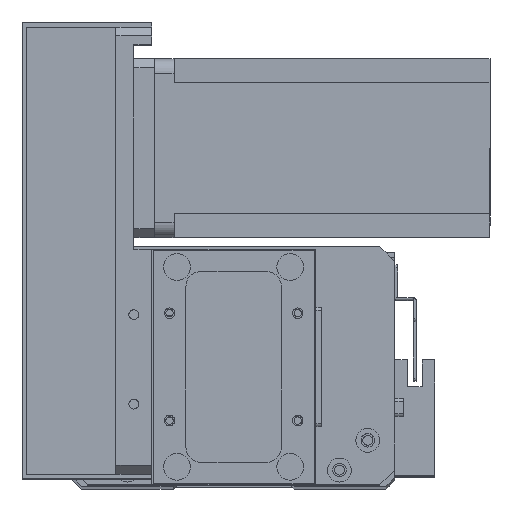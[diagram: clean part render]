
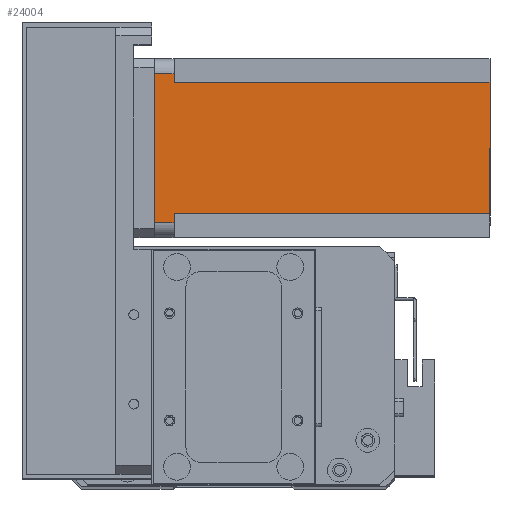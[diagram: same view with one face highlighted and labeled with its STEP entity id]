
A CAD part, top view. The second image highlights one B-rep face of the part: STEP entity #24004.
In plain terms, the highlighted planar face has unit normal (0, 0, 1) as drawn and (0, -1, 0) by its records, which use the part's own axes.
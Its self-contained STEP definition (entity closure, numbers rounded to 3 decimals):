
#62 = VECTOR ( 'NONE', #25181, 1000. ) ;
#411 = VECTOR ( 'NONE', #24879, 1000. ) ;
#420 = CARTESIAN_POINT ( 'NONE',  ( 0., 0., -112.5 ) ) ;
#842 = VERTEX_POINT ( 'NONE', #2804 ) ;
#1143 = ORIENTED_EDGE ( 'NONE', *, *, #6140, .F. ) ;
#1198 = LINE ( 'NONE', #12130, #6946 ) ;
#1729 = ORIENTED_EDGE ( 'NONE', *, *, #6901, .T. ) ;
#1938 = VERTEX_POINT ( 'NONE', #24427 ) ;
#2071 = CARTESIAN_POINT ( 'NONE',  ( 52., 0., -112.5 ) ) ;
#2735 = LINE ( 'NONE', #16335, #13754 ) ;
#2741 = EDGE_LOOP ( 'NONE', ( #4634, #14000, #1143, #4277, #9098, #12307, #1729, #10123 ) ) ;
#2804 = CARTESIAN_POINT ( 'NONE',  ( 55., 0., 0. ) ) ;
#4026 = FACE_OUTER_BOUND ( 'NONE', #2741, .T. ) ;
#4277 = ORIENTED_EDGE ( 'NONE', *, *, #6811, .T. ) ;
#4634 = ORIENTED_EDGE ( 'NONE', *, *, #6772, .T. ) ;
#4643 = VECTOR ( 'NONE', #14567, 1000. ) ;
#5426 = VECTOR ( 'NONE', #14472, 1000. ) ;
#5809 = AXIS2_PLACEMENT_3D ( 'NONE', #19473, #23751, #10836 ) ;
#6057 = CARTESIAN_POINT ( 'NONE',  ( 55., 0., -6.5 ) ) ;
#6140 = EDGE_CURVE ( 'NONE', #18527, #842, #24183, .T. ) ;
#6772 = EDGE_CURVE ( 'NONE', #24180, #24784, #8480, .T. ) ;
#6803 = EDGE_CURVE ( 'NONE', #24784, #842, #2735, .T. ) ;
#6811 = EDGE_CURVE ( 'NONE', #18527, #21560, #18799, .T. ) ;
#6815 = EDGE_CURVE ( 'NONE', #13104, #21560, #1198, .T. ) ;
#6852 = EDGE_CURVE ( 'NONE', #1938, #13104, #28708, .T. ) ;
#6901 = EDGE_CURVE ( 'NONE', #1938, #28888, #17479, .T. ) ;
#6910 = EDGE_CURVE ( 'NONE', #24180, #28888, #27352, .T. ) ;
#6946 = VECTOR ( 'NONE', #27045, 1000. ) ;
#8480 = LINE ( 'NONE', #22685, #9954 ) ;
#9098 = ORIENTED_EDGE ( 'NONE', *, *, #6815, .F. ) ;
#9803 = DIRECTION ( 'NONE',  ( 0., 0., 1. ) ) ;
#9954 = VECTOR ( 'NONE', #26852, 1000. ) ;
#10123 = ORIENTED_EDGE ( 'NONE', *, *, #6910, .F. ) ;
#10836 = DIRECTION ( 'NONE',  ( 0., 0., -1. ) ) ;
#12130 = CARTESIAN_POINT ( 'NONE',  ( 8., 0., -6.5 ) ) ;
#12307 = ORIENTED_EDGE ( 'NONE', *, *, #6852, .F. ) ;
#12686 = CARTESIAN_POINT ( 'NONE',  ( 5., 0., -6.5 ) ) ;
#13104 = VERTEX_POINT ( 'NONE', #25662 ) ;
#13754 = VECTOR ( 'NONE', #9803, 1000. ) ;
#14000 = ORIENTED_EDGE ( 'NONE', *, *, #6803, .T. ) ;
#14263 = CARTESIAN_POINT ( 'NONE',  ( 5., 0., -112.5 ) ) ;
#14472 = DIRECTION ( 'NONE',  ( 0., 0., 1. ) ) ;
#14567 = DIRECTION ( 'NONE',  ( 1., 0., 0. ) ) ;
#16132 = VECTOR ( 'NONE', #25225, 1000. ) ;
#16335 = CARTESIAN_POINT ( 'NONE',  ( 55., 0., -112.5 ) ) ;
#17479 = LINE ( 'NONE', #420, #4643 ) ;
#18527 = VERTEX_POINT ( 'NONE', #21351 ) ;
#18580 = CARTESIAN_POINT ( 'NONE',  ( 8., 0., -112.5 ) ) ;
#18799 = LINE ( 'NONE', #14263, #411 ) ;
#19473 = CARTESIAN_POINT ( 'NONE',  ( 0., 0., -112.5 ) ) ;
#20964 = CARTESIAN_POINT ( 'NONE',  ( 0., 0., 0. ) ) ;
#21351 = CARTESIAN_POINT ( 'NONE',  ( 5., 0., 0. ) ) ;
#21560 = VERTEX_POINT ( 'NONE', #12686 ) ;
#22685 = CARTESIAN_POINT ( 'NONE',  ( 52., 0., -6.5 ) ) ;
#23751 = DIRECTION ( 'NONE',  ( 0., -1., 0. ) ) ;
#24004 = ADVANCED_FACE ( 'NONE', ( #4026 ), #27862, .T. ) ;
#24180 = VERTEX_POINT ( 'NONE', #28312 ) ;
#24183 = LINE ( 'NONE', #20964, #62 ) ;
#24427 = CARTESIAN_POINT ( 'NONE',  ( 8., 0., -112.5 ) ) ;
#24784 = VERTEX_POINT ( 'NONE', #6057 ) ;
#24879 = DIRECTION ( 'NONE',  ( 0., 0., -1. ) ) ;
#25181 = DIRECTION ( 'NONE',  ( 1., 0., 0. ) ) ;
#25225 = DIRECTION ( 'NONE',  ( 0., 0., -1. ) ) ;
#25662 = CARTESIAN_POINT ( 'NONE',  ( 8., 0., -6.5 ) ) ;
#26852 = DIRECTION ( 'NONE',  ( 1., 0., 0. ) ) ;
#27045 = DIRECTION ( 'NONE',  ( -1., 0., 0. ) ) ;
#27304 = CARTESIAN_POINT ( 'NONE',  ( 52., 0., -112.5 ) ) ;
#27352 = LINE ( 'NONE', #27304, #16132 ) ;
#27862 = PLANE ( 'NONE',  #5809 ) ;
#28312 = CARTESIAN_POINT ( 'NONE',  ( 52., 0., -6.5 ) ) ;
#28708 = LINE ( 'NONE', #18580, #5426 ) ;
#28888 = VERTEX_POINT ( 'NONE', #2071 ) ;
